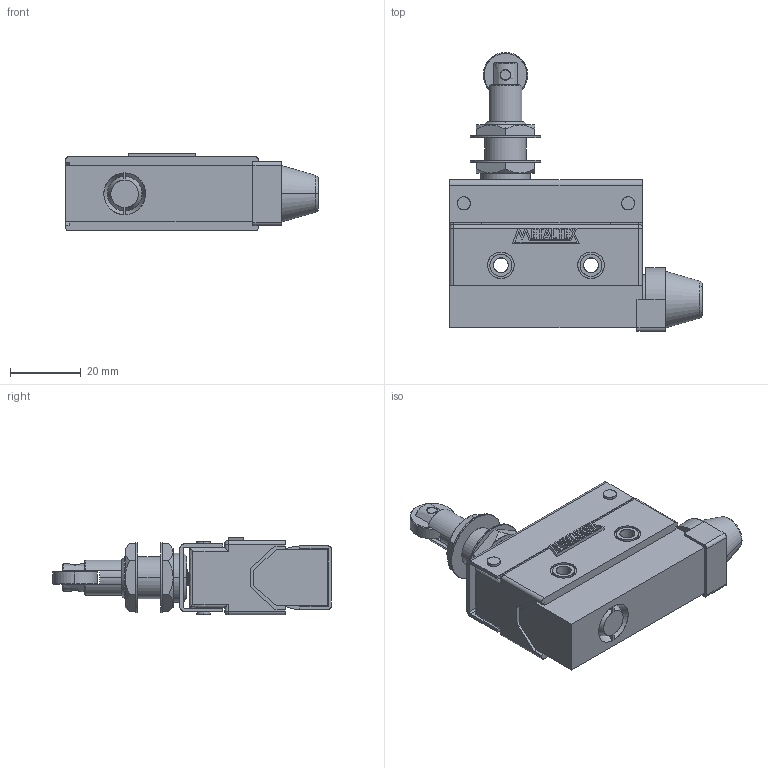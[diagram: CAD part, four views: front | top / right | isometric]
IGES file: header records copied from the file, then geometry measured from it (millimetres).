
Start section: SolidWorks IGES file using analytic representation for surfaces
Global section: file name: D:\X - Arquivos\PROEX\Empresas\P11 - METALTEX\01 - Produtos\IGES\4ª remessa\1ª etapa\FM7311.IGS; native system: SolidWorks 2012; preprocessor: SolidWorks 2012; author: Usuario; date: 180323.102034; units: millimetre
Bounding box: 71.5 x 78.9 x 22 mm (x, y, z)
Surface area: 18865.1 mm2 (no closed solid volume)
Topology: 0 solids, 0 shells, 426 faces, 5664 edges, 5650 vertices
Faces by surface type: bspline 257, revolution 169
